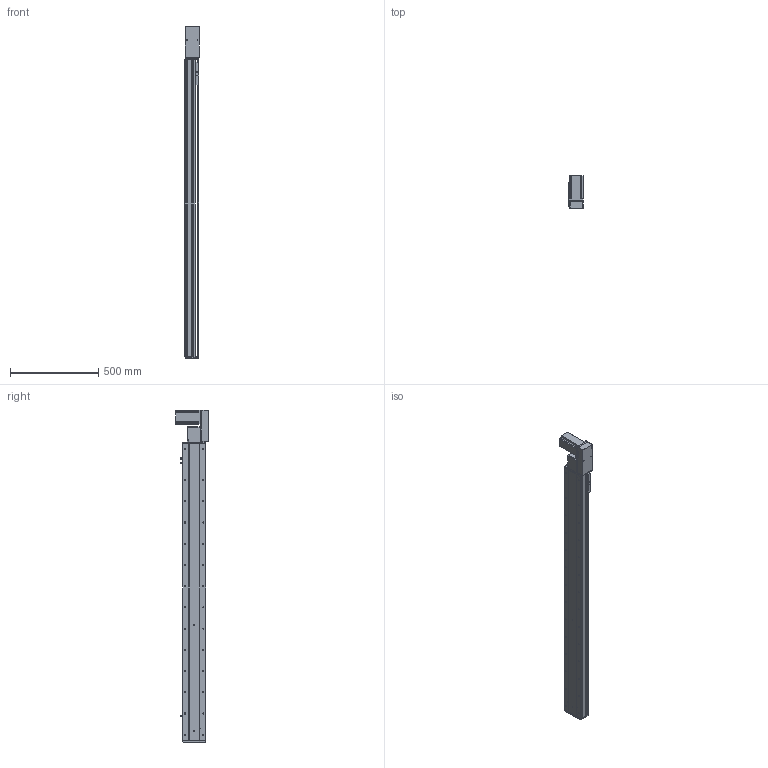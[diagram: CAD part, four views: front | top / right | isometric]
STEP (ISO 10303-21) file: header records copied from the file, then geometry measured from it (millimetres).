
FILE_DESCRIPTION (( 'STEP AP214' ), '1' );
FILE_NAME ('KSD130B-S1450-MLB-CM.STEP', '2019-11-14T03:03:48', ( '微软用户' ), ( '微软中国' ), 'SwSTEP 2.0', 'SolidWorks 2014', '' );
FILE_SCHEMA (( 'AUTOMOTIVE_DESIGN' ));
Length unit declared in the file: millimetre
Products named in the file (12): 130宽端盖同步带半封闭; 130宽底板半封闭同步带-1450行程; KSD130B-S1450-MLB-CM; 台达ECMA－C20807AS伺服电机; 130宽模组保护罩上下左右折-同步带; 130宽模组马达安装板连板左右折同步带; 覜茼え100遵圉猾敕; U倰嫖萇EEㄜSX672; 130宽盖板半封闭同步带-1450行程; 130宽马达安装板同步带左-改; 130宽马达安装板同步带半封闭; 130宽同步带安装座半封闭
Assembly tree (13 placements, depth 2):
  KSD130B-S1450-MLB-CM
    130宽底板半封闭同步带-1450行程
    130宽端盖同步带半封闭
    130宽同步带安装座半封闭
    130宽马达安装板同步带半封闭
    130宽马达安装板同步带左-改
    130宽盖板半封闭同步带-1450行程
    U倰嫖萇EEㄜSX672  x3
    覜茼え100遵圉猾敕
    130宽模组马达安装板连板左右折同步带
    130宽模组保护罩上下左右折-同步带
    台达ECMA－C20807AS伺服电机
Bounding box: 82.5 x 184.8 x 1877 mm (x, y, z)
Volume: 6202964.4 mm3; surface area: 1734317.3 mm2
Topology: 14 solids, 14 shells, 1645 faces, 4741 edges, 3011 vertices
Faces by surface type: cylinder 800, plane 638, cone 207
Entity records: 55151 total; most frequent: CARTESIAN_POINT 10456, DIRECTION 8347, ORIENTED_EDGE 8054, EDGE_CURVE 4027, AXIS2_PLACEMENT_3D 3062, VERTEX_POINT 2635, VECTOR 2223, LINE 2223
